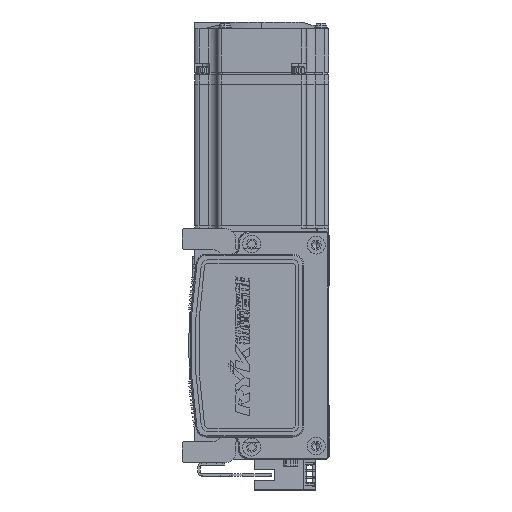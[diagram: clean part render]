
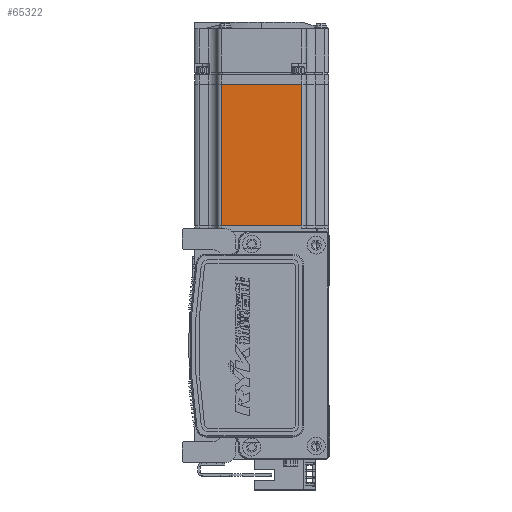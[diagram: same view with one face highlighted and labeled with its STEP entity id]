
A CAD part, left-side view. The second image highlights one B-rep face of the part: STEP entity #65322.
In plain terms, the highlighted planar face has unit normal (-1, 0, 0) as drawn and (0, 0, -1) by its records, which use the part's own axes.
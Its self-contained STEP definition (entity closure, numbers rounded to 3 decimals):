
#654 = LINE ( 'NONE', #14046, #56521 ) ;
#4596 = CARTESIAN_POINT ( 'NONE',  ( -70.95, 18., -30. ) ) ;
#7288 = EDGE_CURVE ( 'NONE', #62329, #61123, #654, .T. ) ;
#7952 = CARTESIAN_POINT ( 'NONE',  ( -6.5, 25., -30. ) ) ;
#9562 = DIRECTION ( 'NONE',  ( -1., 0., 0. ) ) ;
#10517 = ORIENTED_EDGE ( 'NONE', *, *, #44016, .T. ) ;
#12098 = ORIENTED_EDGE ( 'NONE', *, *, #14741, .T. ) ;
#12408 = DIRECTION ( 'NONE',  ( 0., -1., 0. ) ) ;
#13378 = DIRECTION ( 'NONE',  ( 0., 1., 0. ) ) ;
#14046 = CARTESIAN_POINT ( 'NONE',  ( -6.5, 18., -30. ) ) ;
#14333 = VECTOR ( 'NONE', #9562, 1000. ) ;
#14741 = EDGE_CURVE ( 'NONE', #61123, #66211, #46718, .T. ) ;
#26635 = CARTESIAN_POINT ( 'NONE',  ( -7.75, -18., -30. ) ) ;
#35842 = DIRECTION ( 'NONE',  ( 1., 0., 0. ) ) ;
#36202 = EDGE_LOOP ( 'NONE', ( #12098, #10517, #68606, #46864 ) ) ;
#36698 = CARTESIAN_POINT ( 'NONE',  ( -70.95, -18., -30. ) ) ;
#36717 = CARTESIAN_POINT ( 'NONE',  ( -7.75, 18., -30. ) ) ;
#39196 = VECTOR ( 'NONE', #13378, 1000. ) ;
#39480 = DIRECTION ( 'NONE',  ( -1., 0., 0. ) ) ;
#40431 = PLANE ( 'NONE',  #67778 ) ;
#41556 = EDGE_CURVE ( 'NONE', #58810, #62329, #65463, .T. ) ;
#42536 = FACE_OUTER_BOUND ( 'NONE', #36202, .T. ) ;
#44016 = EDGE_CURVE ( 'NONE', #66211, #58810, #54936, .T. ) ;
#46718 = LINE ( 'NONE', #61694, #54179 ) ;
#46864 = ORIENTED_EDGE ( 'NONE', *, *, #7288, .T. ) ;
#53112 = CARTESIAN_POINT ( 'NONE',  ( -6.5, -18., -30. ) ) ;
#54179 = VECTOR ( 'NONE', #12408, 1000. ) ;
#54936 = LINE ( 'NONE', #53112, #14333 ) ;
#56521 = VECTOR ( 'NONE', #35842, 1000. ) ;
#56699 = DIRECTION ( 'NONE',  ( 0., 0., -1. ) ) ;
#58810 = VERTEX_POINT ( 'NONE', #36698 ) ;
#61123 = VERTEX_POINT ( 'NONE', #36717 ) ;
#61694 = CARTESIAN_POINT ( 'NONE',  ( -7.75, 25., -30. ) ) ;
#62329 = VERTEX_POINT ( 'NONE', #4596 ) ;
#65322 = ADVANCED_FACE ( 'NONE', ( #42536 ), #40431, .T. ) ;
#65463 = LINE ( 'NONE', #67551, #39196 ) ;
#66211 = VERTEX_POINT ( 'NONE', #26635 ) ;
#67551 = CARTESIAN_POINT ( 'NONE',  ( -70.95, 25., -30. ) ) ;
#67778 = AXIS2_PLACEMENT_3D ( 'NONE', #7952, #56699, #39480 ) ;
#68606 = ORIENTED_EDGE ( 'NONE', *, *, #41556, .T. ) ;
